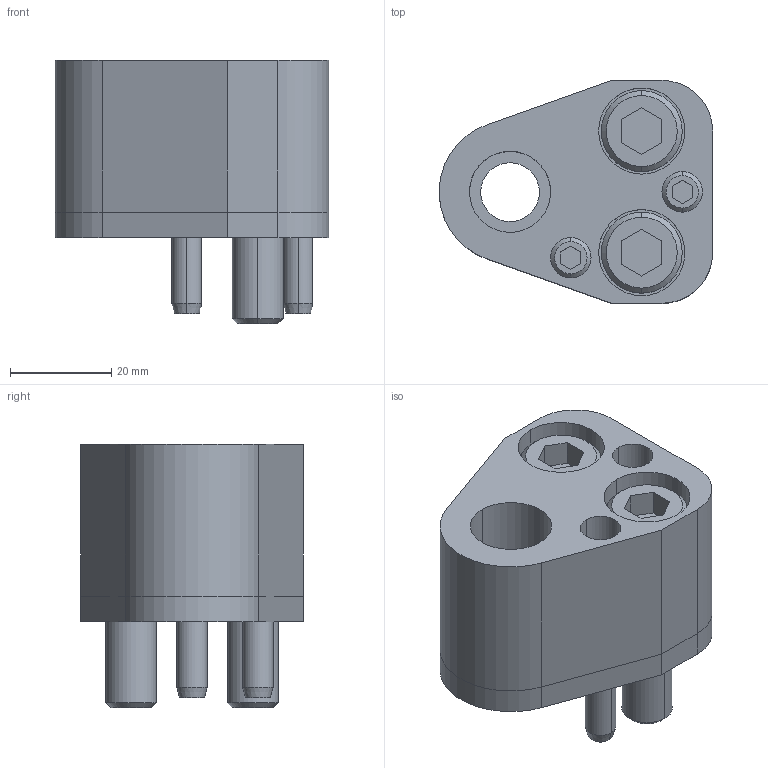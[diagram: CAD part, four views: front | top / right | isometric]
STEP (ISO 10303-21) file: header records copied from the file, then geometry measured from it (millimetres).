
FILE_DESCRIPTION(/* description */ (''),/* implementation_level */ '2;1');
FILE_NAME(/* name */ '3d_cp-ad16_03055_r00.stp',/* time_stamp */ '2011-01-10T14:16:31+09:00',/* author */ ('MISUMI'),/* organization */ (''),/* preprocessor_version */ 'ST-DEVELOPER v11',/* originating_system */ 'UGS - NX 5.0',/* authorisation */ '');
FILE_SCHEMA (('CONFIG_CONTROL_DESIGN'));
Length unit declared in the file: millimetre
Products named in the file (1): 3d_cp-ad16_03055_r00
Bounding box: 53.95 x 44 x 52 mm (x, y, z)
Volume: 57970.9 mm3; surface area: 24307.1 mm2
Topology: 8 solids, 8 shells, 155 faces, 346 edges, 222 vertices
Faces by surface type: plane 67, cylinder 62, cone 26
Entity records: 4474 total; most frequent: DIRECTION 804, CARTESIAN_POINT 772, ORIENTED_EDGE 692, EDGE_CURVE 346, AXIS2_PLACEMENT_3D 306, VERTEX_POINT 222, LINE 192, VECTOR 192
